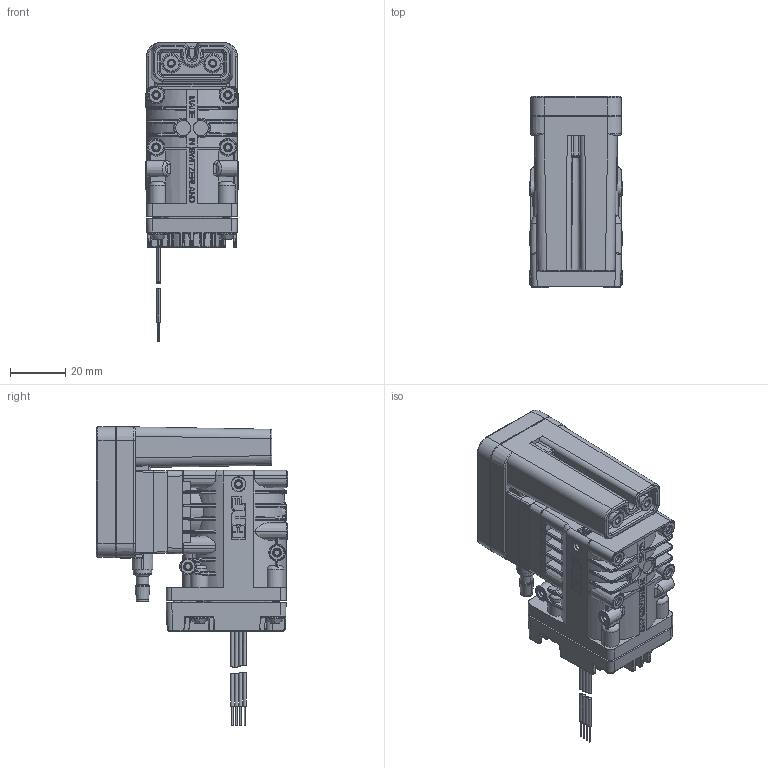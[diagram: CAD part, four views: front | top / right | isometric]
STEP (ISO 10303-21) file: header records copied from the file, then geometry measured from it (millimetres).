
FILE_DESCRIPTION((''),'2;1');
FILE_NAME('358680_2','2026-01-13T11:28:24',('Brian.Timoney'),('KNF Flodos AG, 6210 Sursee, Switzerland'),'CREO PARAMETRIC BY PTC INC, 2024401','CREO PARAMETRIC BY PTC INC, 2024401','');
FILE_SCHEMA(('AP242_MANAGED_MODEL_BASED_3D_ENGINEERING_MIM_LF { 1 0 10303 442 1 1 4 }'));
Products named in the file (1): 358680_2
Bounding box: 33.4 x 69.3 x 108.36 mm (x, y, z)
Volume: 121494.6 mm3; surface area: 29243.6 mm2
Topology: 5 solids, 5 shells, 3922 faces, 9968 edges, 6205 vertices
Faces by surface type: plane 1929, cylinder 919, bspline 452, torus 284, cone 158, extrusion 102, sphere 78
Entity records: 164178 total; most frequent: CARTESIAN_POINT 72120, ORIENTED_EDGE 19932, DIRECTION 17847, EDGE_CURVE 9966, VECTOR 6247, VERTEX_POINT 6205, LINE 6145, AXIS2_PLACEMENT_3D 5800
